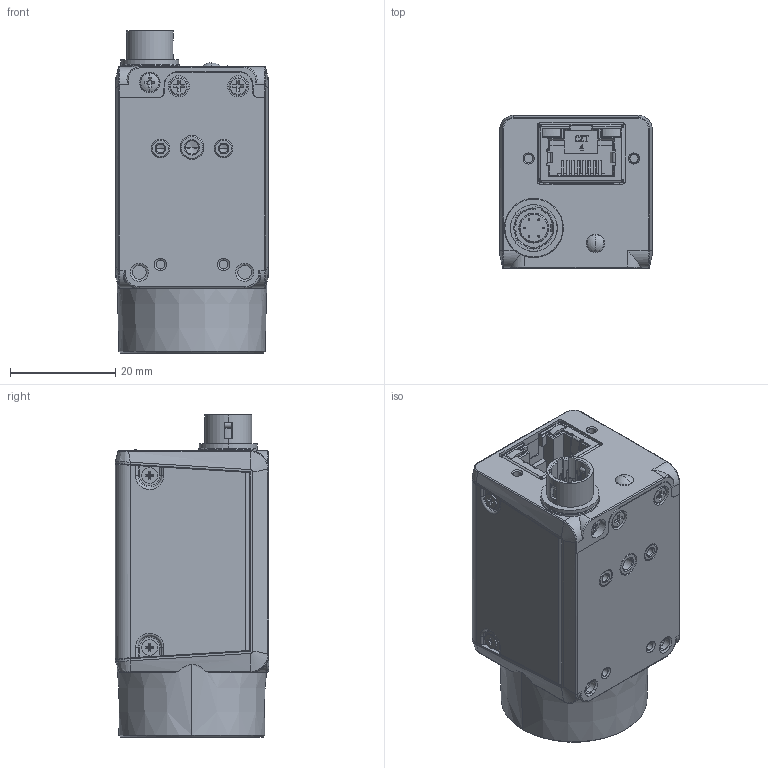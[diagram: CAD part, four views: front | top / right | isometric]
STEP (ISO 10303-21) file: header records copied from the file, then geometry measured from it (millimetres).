
FILE_DESCRIPTION((''),'2;1');
FILE_NAME('DH3-0195-6235_1','2023-11-28T15:45:51',('331929'),(''),'CREO PARAMETRIC BY PTC INC, 2020184','CREO PARAMETRIC BY PTC INC, 2020184','');
FILE_SCHEMA(('CONFIG_CONTROL_DESIGN','SHAPE_APPEARANCE_LAYERS_GROUPS'));
Products named in the file (1): DH3-0195-6235_1
Bounding box: 29 x 29.05 x 61.1 mm (x, y, z)
Volume: 19103.3 mm3; surface area: 22271.2 mm2
Topology: 1 solids, 12 shells, 1947 faces, 5437 edges, 3445 vertices
Faces by surface type: plane 1049, cylinder 517, bspline 164, cone 133, torus 42, extrusion 31, sphere 9, revolution 2
Entity records: 91374 total; most frequent: CARTESIAN_POINT 25378, ORIENTED_EDGE 10846, DIRECTION 9285, PRESENTATION_STYLE_ASSIGNMENT 5486, STYLED_ITEM 5451, CURVE_STYLE 5423, EDGE_CURVE 5423, VECTOR 3575
